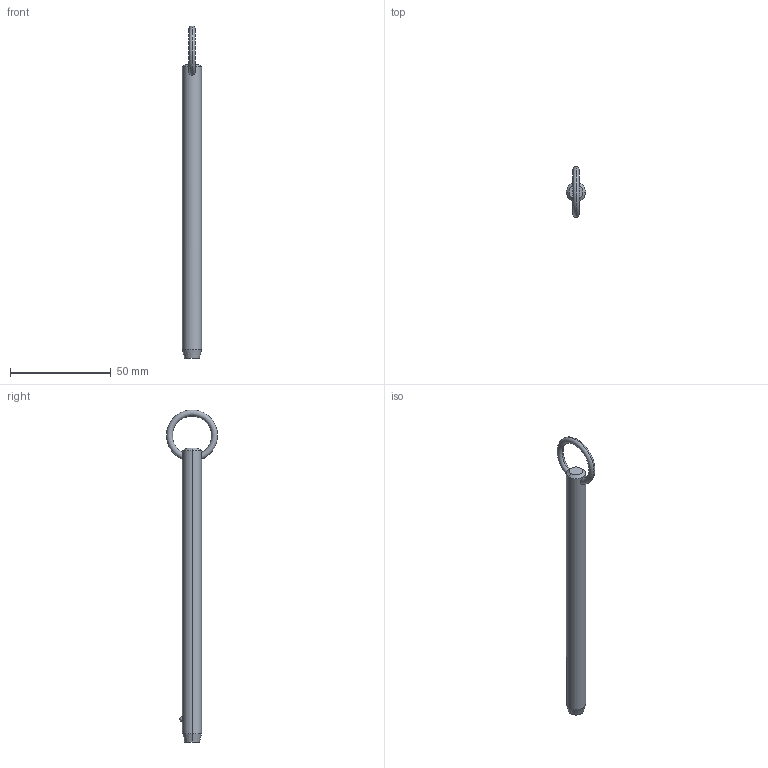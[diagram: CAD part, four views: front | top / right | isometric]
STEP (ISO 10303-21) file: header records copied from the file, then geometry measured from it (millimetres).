
FILE_DESCRIPTION (( 'STEP AP203' ), '1' );
FILE_NAME ('P1250.037-500.step', '2019-07-29T20:12:32', ( '' ), ( '' ), 'SwSTEP 2.0', 'SolidWorks 2017', '' );
FILE_SCHEMA (( 'CONFIG_CONTROL_DESIGN' ));
Length unit declared in the file: millimetre
Products named in the file (1): P1250.037-500
Bounding box: 9.52 x 25.39 x 165.1 mm (x, y, z)
Volume: 10747.1 mm3; surface area: 5010.3 mm2
Topology: 1 solids, 1 shells, 12 faces, 28 edges, 17 vertices
Faces by surface type: cone 4, torus 2, sphere 2, cylinder 2, plane 2
Entity records: 523 total; most frequent: CARTESIAN_POINT 190, DIRECTION 56, ORIENTED_EDGE 48, AXIS2_PLACEMENT_3D 25, EDGE_CURVE 24, VERTEX_POINT 15, EDGE_LOOP 15, CIRCLE 12
